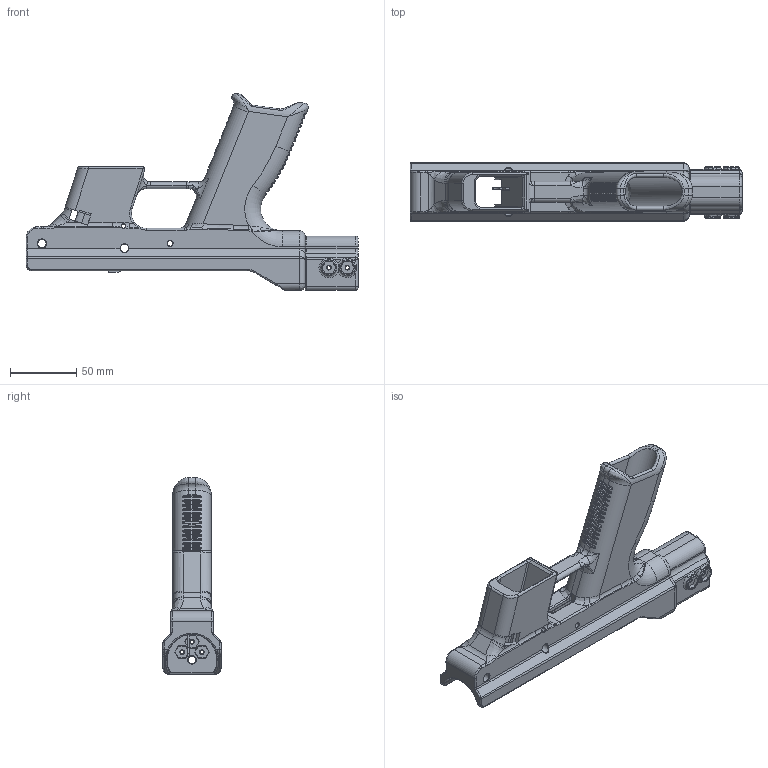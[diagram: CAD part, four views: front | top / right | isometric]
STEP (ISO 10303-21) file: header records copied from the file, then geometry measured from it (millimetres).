
FILE_DESCRIPTION(/* description */ (''),/* implementation_level */ '2;1');
FILE_NAME(/* name */ '/var/folders/q3/90_s8p4j77vgml143qxzs9nh0000gn/T/com.autodesk.mas.fusion360/Neutron/2db2668f-834a-4ed3-80de-1a24cb0b059f.stp',/* time_stamp */ '2019-04-26T13:10:35-04:00',/* author */ ('suzuki450ltr'),/* organization */ (''),/* preprocessor_version */ 'ST-DEVELOPER v18',/* originating_system */ 'Autodesk Translation Framework v8.2.0.1029',/* authorisation */ '');
FILE_SCHEMA (('AUTOMOTIVE_DESIGN { 1 0 10303 214 3 1 1 }'));
Products named in the file (3): AB-10 Brace Reciever 3; Moddified Ejector; Brace Adapter
Assembly tree (2 placements, depth 2):
  AB-10 Brace Reciever 3
    Moddified Ejector
    Brace Adapter
Bounding box: 250.98 x 44 x 148.84 mm (x, y, z)
Volume: 254702.5 mm3; surface area: 92807.4 mm2
Topology: 3 solids, 3 shells, 1168 faces, 2845 edges, 1646 vertices
Faces by surface type: bspline 412, cylinder 322, plane 285, torus 101, cone 42, sphere 6
Full cylindrical faces by diameter (mm): 3 x10, 3.175 x3, 4 x2, 5.5 x1, 6.3 x5, 6.5 x1, 10 x5, 12 x4, 26 x1
Entity records: 48240 total; most frequent: CARTESIAN_POINT 22510, ORIENTED_EDGE 5644, DIRECTION 4970, EDGE_CURVE 2822, AXIS2_PLACEMENT_3D 1980, VERTEX_POINT 1651, EDGE_LOOP 1213, FACE_OUTER_BOUND 1168
